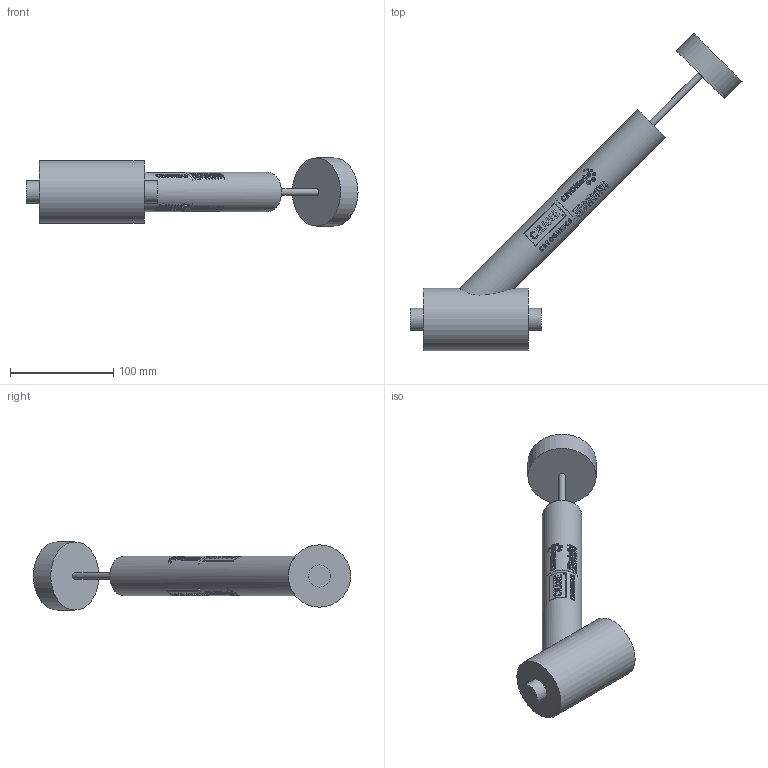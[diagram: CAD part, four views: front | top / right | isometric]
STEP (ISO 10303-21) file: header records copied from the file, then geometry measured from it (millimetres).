
FILE_DESCRIPTION (( 'STEP AP203' ), '1' );
FILE_NAME ('0.5in Y-Pattern Manual TF Valve.step', '2025-12-17T20:07:51', ( '' ), ( '' ), 'SwSTEP 2.0', 'SolidWorks 2023', '' );
FILE_SCHEMA (( 'CONFIG_CONTROL_DESIGN' ));
Length unit declared in the file: inch
Products named in the file (1): 0.5in Y-Pattern Manual TF Valve
Bounding box: 321.33 x 307.04 x 65.99 mm (x, y, z)
Volume: 639181 mm3; surface area: 74349.8 mm2
Topology: 1 solids, 1 shells, 1153 faces, 2946 edges, 1964 vertices
Faces by surface type: plane 743, cylinder 304, bspline 106
Full cylindrical faces by diameter (mm): 0.597 x2, 0.654 x2, 0.711 x2, 0.816 x2, 0.921 x2, 1.187 x2, 1.228 x2, 1.363 x2, 1.453 x2, 1.523 x2, 1.604 x2, 1.829 x2, 2.471 x2, 3.052 x2, 3.693 x2, 4.3 x2, 6.35 x1, 21.336 x2, 38.1 x1, 60.325 x1, 65.989 x1
Entity records: 46956 total; most frequent: CARTESIAN_POINT 21582, ORIENTED_EDGE 5784, DIRECTION 4314, EDGE_CURVE 2892, VERTEX_POINT 1964, VECTOR 1532, LINE 1532, AXIS2_PLACEMENT_3D 1391
